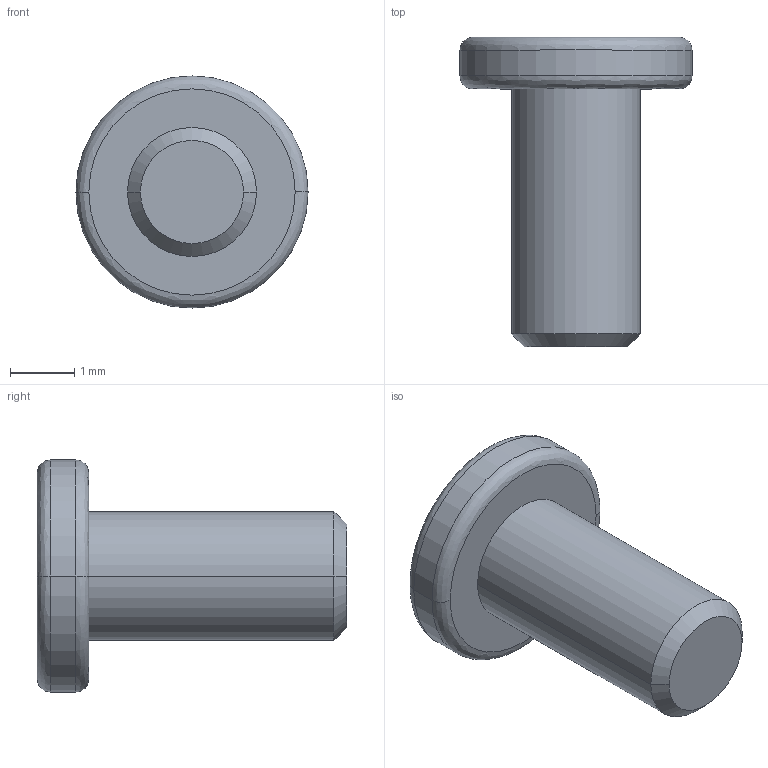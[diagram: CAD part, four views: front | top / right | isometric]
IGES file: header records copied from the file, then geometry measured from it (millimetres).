
Start section:  PTC IGES file: s20_40_thin_prt.igs
Global section: file name: s20_40_thin_prt.igs; native system: Pro/ENGINEER by Parametric Technology Corporation; preprocessor: 2000030; author: ECaille; organization: Unknown; date: 000803.092132; units: millimetre
Bounding box: 3.6 x 4.8 x 3.6 mm (x, y, z)
Surface area: 55.6 mm2 (no closed solid volume)
Topology: 0 solids, 0 shells, 38 faces, 269 edges, 363 vertices
Faces by surface type: revolution 22, bspline 16
